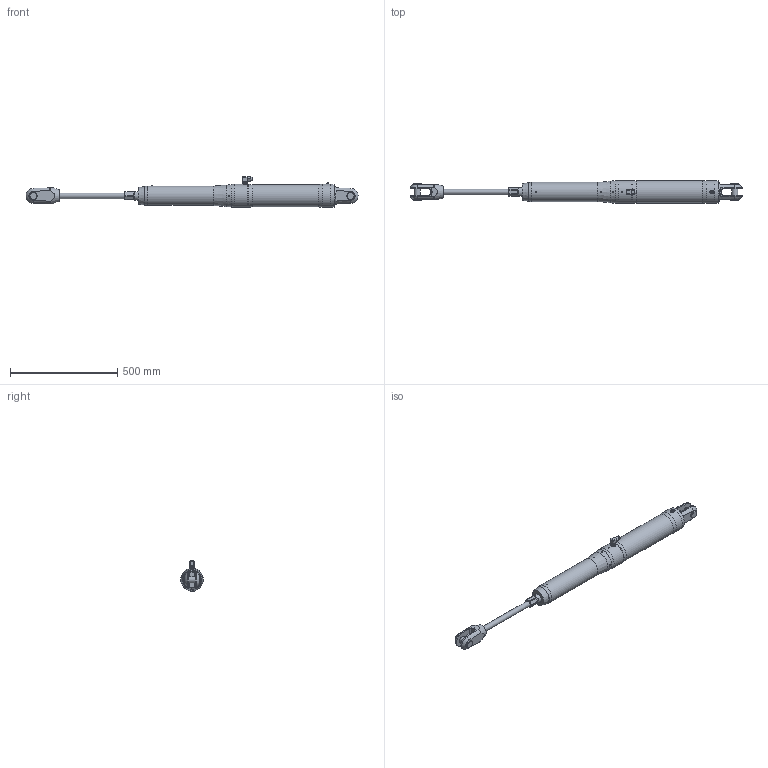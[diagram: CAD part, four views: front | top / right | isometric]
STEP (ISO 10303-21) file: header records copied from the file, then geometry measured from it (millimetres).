
FILE_DESCRIPTION(/* description */ (''),/* implementation_level */ '2;1');
FILE_NAME(/* name */ 'Q:\AA BRAND HYDRAULICS\HYDRAULICS FAMILY DIRECTORY\HYDRAULICS\CYLINDERS\MECHANICAL LOCK RAMS\ALUMINIUM - STAINLESS SINGLE ACTING (-0012 To -0150)\MSA-0048-S0300-NP-71\MSA-0048-S0300-NP-71 (Open).stp',/* time_stamp */ '2018-04-25T16:24:15+01:00',/* author */ ('Lorena'),/* organization */ (''),/* preprocessor_version */ 'ST-DEVELOPER v17',/* originating_system */ 'Autodesk Inventor 2018',/* authorisation */ '');
FILE_SCHEMA (('AUTOMOTIVE_DESIGN { 1 0 10303 214 3 1 1 }'));
Length unit declared in the file: millimetre
Products named in the file (1): MSA-0048-S0300-NP-71 (Open)
Bounding box: 1548.37 x 107.2 x 142.75 mm (x, y, z)
Volume: 8031616.3 mm3; surface area: 431726.8 mm2
Topology: 2 solids, 4 shells, 493 faces, 1291 edges, 840 vertices
Faces by surface type: plane 279, cone 124, cylinder 76, torus 6, sphere 4, bspline 4
Full cylindrical faces by diameter (mm): 4 x1, 4.134 x1, 4.2 x3, 5 x2, 6 x4, 7 x1, 7.5 x1, 8.1 x1, 9 x1, 10 x2, 14 x1, 14.35 x1, 14.662 x1, 15 x2, 15.662 x1, 16 x2, 16.662 x2, 18 x2, 21.4 x3, 25 x1, 25.5 x1, 28.58 x2, 35.725 x2, 40 x2, 41 x2, 44 x1, 90 x1, 104.2 x1, 107.2 x4
Entity records: 16735 total; most frequent: CARTESIAN_POINT 4225, ORIENTED_EDGE 2564, DIRECTION 2497, EDGE_CURVE 1282, AXIS2_PLACEMENT_3D 960, VERTEX_POINT 841, LINE 577, VECTOR 577
